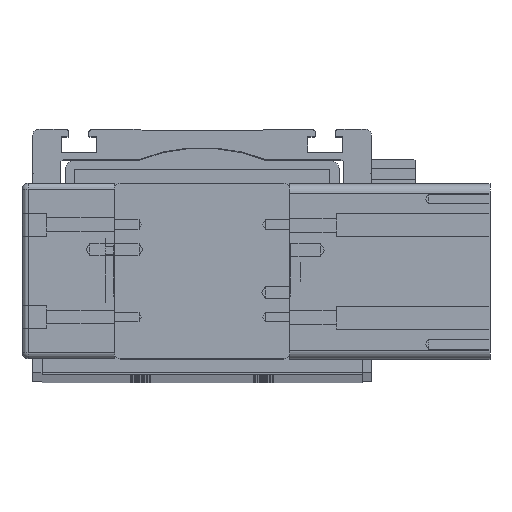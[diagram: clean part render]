
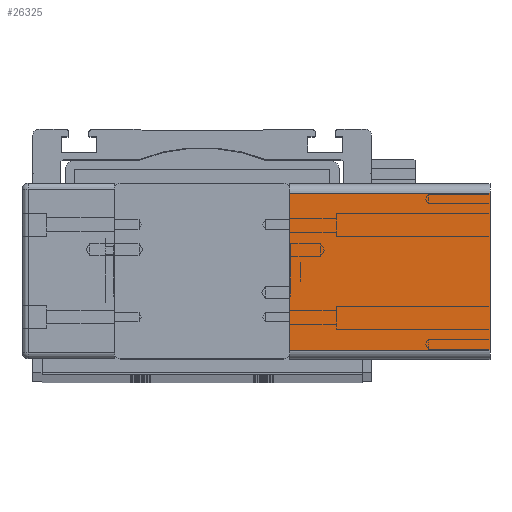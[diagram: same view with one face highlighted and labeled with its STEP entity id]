
A CAD part, top view. The second image highlights one B-rep face of the part: STEP entity #26325.
In plain terms, the highlighted planar face has unit normal (0, 0, 1) as drawn and (-1, 0, 0) by its records, which use the part's own axes.
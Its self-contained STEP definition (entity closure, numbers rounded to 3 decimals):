
#26059=CARTESIAN_POINT('',(0.0,54.0,0.0));
#26060=VERTEX_POINT('',#26059);
#26068=CARTESIAN_POINT('',(0.0,3.,0.0));
#26069=VERTEX_POINT('',#26068);
#26070=CARTESIAN_POINT('',(0.0,54.0,0.0));
#26071=DIRECTION('',(0.0,-1.0,0.0));
#26072=VECTOR('',#26071,51.0);
#26073=LINE('',#26070,#26072);
#26074=EDGE_CURVE('',#26060,#26069,#26073,.T.);
#26208=CARTESIAN_POINT('',(0.0,3.,-65.0));
#26209=VERTEX_POINT('',#26208);
#26226=CARTESIAN_POINT('',(0.0,3.,0.0));
#26227=DIRECTION('',(0.0,0.0,-1.0));
#26228=VECTOR('',#26227,65.0);
#26229=LINE('',#26226,#26228);
#26230=EDGE_CURVE('',#26069,#26209,#26229,.T.);
#26284=CARTESIAN_POINT('',(0.0,54.0,-65.0));
#26285=VERTEX_POINT('',#26284);
#26293=CARTESIAN_POINT('',(0.0,54.0,-65.0));
#26294=DIRECTION('',(0.0,0.0,1.0));
#26295=VECTOR('',#26294,65.0);
#26296=LINE('',#26293,#26295);
#26297=EDGE_CURVE('',#26285,#26060,#26296,.T.);
#26309=CARTESIAN_POINT('',(0.0,57.0,0.0));
#26310=DIRECTION('',(-1.0,0.0,0.0));
#26311=DIRECTION('',(0.0,0.0,1.0));
#26312=AXIS2_PLACEMENT_3D('',#26309,#26310,#26311);
#26313=PLANE('',#26312);
#26314=ORIENTED_EDGE('',*,*,#26230,.F.);
#26315=ORIENTED_EDGE('',*,*,#26074,.F.);
#26316=ORIENTED_EDGE('',*,*,#26297,.F.);
#26317=CARTESIAN_POINT('',(0.0,54.0,-65.0));
#26318=DIRECTION('',(0.0,-1.0,0.0));
#26319=VECTOR('',#26318,51.0);
#26320=LINE('',#26317,#26319);
#26321=EDGE_CURVE('',#26285,#26209,#26320,.T.);
#26322=ORIENTED_EDGE('',*,*,#26321,.T.);
#26323=EDGE_LOOP('',(#26314,#26315,#26316,#26322));
#26324=FACE_OUTER_BOUND('',#26323,.T.);
#26325=ADVANCED_FACE('',(#26324),#26313,.T.);
